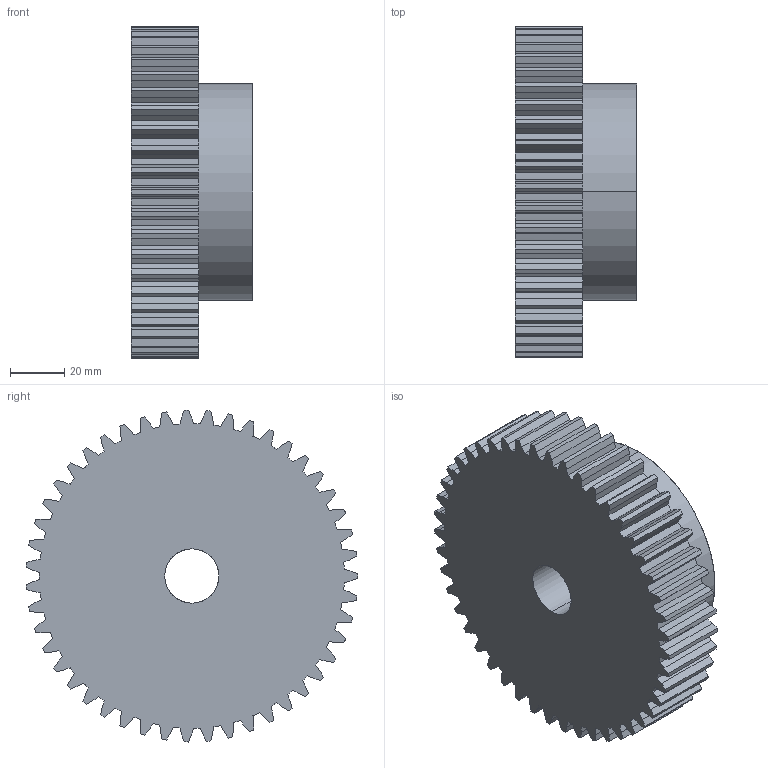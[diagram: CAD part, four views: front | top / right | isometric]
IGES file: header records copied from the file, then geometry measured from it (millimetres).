
Start section: SolidWorks IGES file using analytic representation for surfaces
Global section: file name: C:\Users\Honza\Desktop\Matis (Hotove)\Èelní ozubená kola\PM\MODUL 2,5\PM 29047.IGS; native system: SolidWorks 2010; preprocessor: SolidWorks 2010; author: Honza; date: 130925.151142; units: millimetre
Bounding box: 45 x 122.41 x 122.48 mm (x, y, z)
Surface area: 46137.7 mm2 (no closed solid volume)
Topology: 0 solids, 0 shells, 289 faces, 1932 edges, 1932 vertices
Faces by surface type: bspline 191, revolution 98
